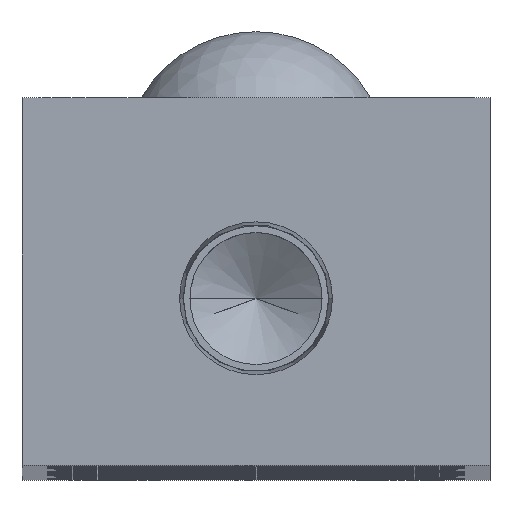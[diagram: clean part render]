
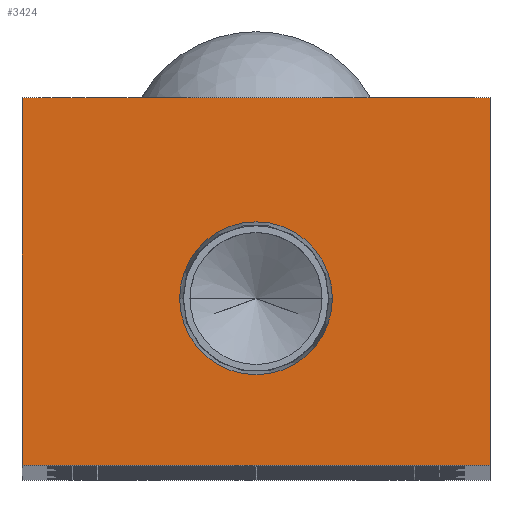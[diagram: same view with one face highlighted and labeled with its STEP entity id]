
A CAD part, top view. The second image highlights one B-rep face of the part: STEP entity #3424.
In plain terms, the highlighted planar face has unit normal (0, 0, 1).
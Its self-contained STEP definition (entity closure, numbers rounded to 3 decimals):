
#5 = VECTOR ( 'NONE', #2262, 1000. ) ;
#257 = FACE_BOUND ( 'NONE', #6023, .T. ) ;
#368 = ORIENTED_EDGE ( 'NONE', *, *, #1021, .F. ) ;
#371 = CARTESIAN_POINT ( 'NONE',  ( -14., 22., 0. ) ) ;
#873 = CIRCLE ( 'NONE', #12775, 4.574 ) ;
#918 = DIRECTION ( 'NONE',  ( -1., 0., 0. ) ) ;
#1021 = EDGE_CURVE ( 'NONE', #6803, #10226, #873, .T. ) ;
#1095 = LINE ( 'NONE', #9772, #10394 ) ;
#1182 = CARTESIAN_POINT ( 'NONE',  ( 4.574, 10., 0. ) ) ;
#1353 = CARTESIAN_POINT ( 'NONE',  ( 0., 0., 0. ) ) ;
#1730 = EDGE_CURVE ( 'NONE', #10226, #6803, #5422, .T. ) ;
#1744 = ORIENTED_EDGE ( 'NONE', *, *, #6035, .T. ) ;
#2262 = DIRECTION ( 'NONE',  ( 1., 0., 0. ) ) ;
#3095 = EDGE_CURVE ( 'NONE', #7834, #7597, #12010, .T. ) ;
#3240 = LINE ( 'NONE', #10693, #5 ) ;
#3424 = ADVANCED_FACE ( 'NONE', ( #257, #3482 ), #8621, .F. ) ;
#3482 = FACE_OUTER_BOUND ( 'NONE', #10093, .T. ) ;
#5011 = DIRECTION ( 'NONE',  ( 0., 0., -1. ) ) ;
#5422 = CIRCLE ( 'NONE', #8655, 4.574 ) ;
#5841 = CARTESIAN_POINT ( 'NONE',  ( 0., 10., 0. ) ) ;
#6023 = EDGE_LOOP ( 'NONE', ( #8931, #368 ) ) ;
#6035 = EDGE_CURVE ( 'NONE', #14581, #15276, #1095, .T. ) ;
#6720 = LINE ( 'NONE', #8196, #9597 ) ;
#6803 = VERTEX_POINT ( 'NONE', #15366 ) ;
#6851 = DIRECTION ( 'NONE',  ( 0., 0., 1. ) ) ;
#7060 = DIRECTION ( 'NONE',  ( 1., 0., 0. ) ) ;
#7597 = VERTEX_POINT ( 'NONE', #8376 ) ;
#7834 = VERTEX_POINT ( 'NONE', #371 ) ;
#8078 = EDGE_CURVE ( 'NONE', #15276, #7834, #6720, .T. ) ;
#8196 = CARTESIAN_POINT ( 'NONE',  ( -14., 22., 0. ) ) ;
#8313 = CARTESIAN_POINT ( 'NONE',  ( 14., 0., 0. ) ) ;
#8376 = CARTESIAN_POINT ( 'NONE',  ( -14., 0., 0. ) ) ;
#8621 = PLANE ( 'NONE',  #13746 ) ;
#8646 = CARTESIAN_POINT ( 'NONE',  ( 14., 22., 0. ) ) ;
#8655 = AXIS2_PLACEMENT_3D ( 'NONE', #14101, #6851, #15317 ) ;
#8864 = CARTESIAN_POINT ( 'NONE',  ( -14., 0., 0. ) ) ;
#8931 = ORIENTED_EDGE ( 'NONE', *, *, #1730, .F. ) ;
#9597 = VECTOR ( 'NONE', #918, 1000. ) ;
#9772 = CARTESIAN_POINT ( 'NONE',  ( 14., 0., 0. ) ) ;
#10047 = ORIENTED_EDGE ( 'NONE', *, *, #11175, .T. ) ;
#10093 = EDGE_LOOP ( 'NONE', ( #12315, #10047, #1744, #15604 ) ) ;
#10226 = VERTEX_POINT ( 'NONE', #1182 ) ;
#10394 = VECTOR ( 'NONE', #14564, 1000. ) ;
#10693 = CARTESIAN_POINT ( 'NONE',  ( -14., 0., 0. ) ) ;
#11175 = EDGE_CURVE ( 'NONE', #7597, #14581, #3240, .T. ) ;
#11269 = VECTOR ( 'NONE', #12441, 1000. ) ;
#12010 = LINE ( 'NONE', #8864, #11269 ) ;
#12315 = ORIENTED_EDGE ( 'NONE', *, *, #3095, .T. ) ;
#12441 = DIRECTION ( 'NONE',  ( 0., -1., 0. ) ) ;
#12775 = AXIS2_PLACEMENT_3D ( 'NONE', #5841, #14293, #7060 ) ;
#13468 = DIRECTION ( 'NONE',  ( -1., 0., 0. ) ) ;
#13746 = AXIS2_PLACEMENT_3D ( 'NONE', #1353, #5011, #13468 ) ;
#14101 = CARTESIAN_POINT ( 'NONE',  ( 0., 10., 0. ) ) ;
#14293 = DIRECTION ( 'NONE',  ( 0., 0., 1. ) ) ;
#14564 = DIRECTION ( 'NONE',  ( 0., 1., 0. ) ) ;
#14581 = VERTEX_POINT ( 'NONE', #8313 ) ;
#15276 = VERTEX_POINT ( 'NONE', #8646 ) ;
#15317 = DIRECTION ( 'NONE',  ( 1., 0., 0. ) ) ;
#15366 = CARTESIAN_POINT ( 'NONE',  ( -4.574, 10., 0. ) ) ;
#15604 = ORIENTED_EDGE ( 'NONE', *, *, #8078, .T. ) ;
